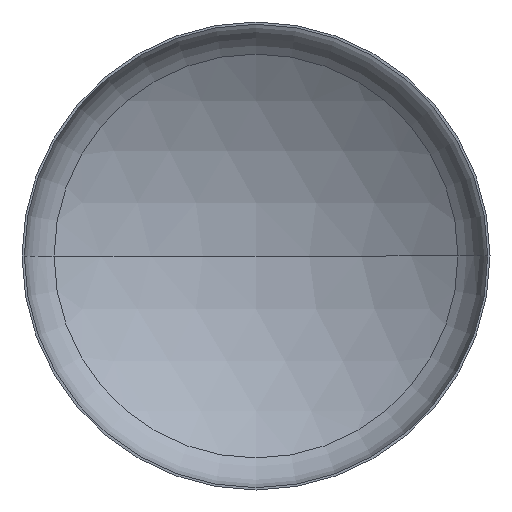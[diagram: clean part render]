
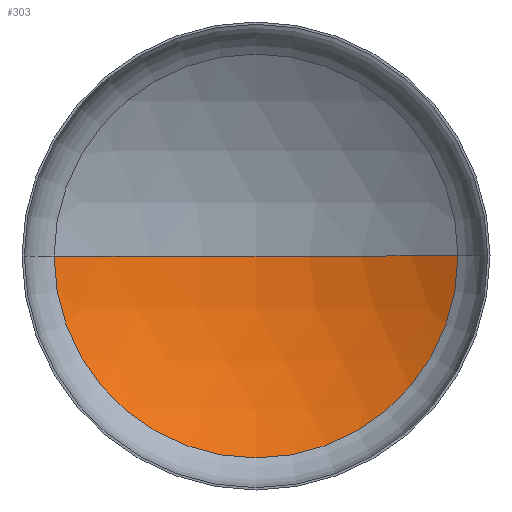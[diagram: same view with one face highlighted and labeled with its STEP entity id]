
A CAD part, front view. The second image highlights one B-rep face of the part: STEP entity #303.
In plain terms, the highlighted spherical face has radius 481.68 mm.
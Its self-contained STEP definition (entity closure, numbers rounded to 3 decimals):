
#24 = CARTESIAN_POINT ( 'NONE',  ( 0., 72.854, 0. ) ) ;
#26 = DIRECTION ( 'NONE',  ( 0., 0., 1. ) ) ;
#27 = CARTESIAN_POINT ( 'NONE',  ( 0., -330.68, 0. ) ) ;
#42 = CIRCLE ( 'NONE', #264, 481.68 ) ;
#54 = DIRECTION ( 'NONE',  ( -1., 0., 0. ) ) ;
#57 = ORIENTED_EDGE ( 'NONE', *, *, #276, .T. ) ;
#78 = CIRCLE ( 'NONE', #210, 263.013 ) ;
#79 = CARTESIAN_POINT ( 'NONE',  ( -263.013, 72.854, 0. ) ) ;
#80 = DIRECTION ( 'NONE',  ( -1., 0., 0. ) ) ;
#85 = SPHERICAL_SURFACE ( 'NONE', #222, 481.68 ) ;
#95 = ORIENTED_EDGE ( 'NONE', *, *, #157, .F. ) ;
#109 = DIRECTION ( 'NONE',  ( 0., 1., 0. ) ) ;
#134 = DIRECTION ( 'NONE',  ( -1., 0., 0. ) ) ;
#153 = ORIENTED_EDGE ( 'NONE', *, *, #381, .F. ) ;
#157 = EDGE_CURVE ( 'NONE', #257, #325, #42, .T. ) ;
#168 = AXIS2_PLACEMENT_3D ( 'NONE', #27, #265, #367 ) ;
#170 = DIRECTION ( 'NONE',  ( 0., 0., -1. ) ) ;
#179 = CARTESIAN_POINT ( 'NONE',  ( 0., -330.68, 0. ) ) ;
#203 = VERTEX_POINT ( 'NONE', #234 ) ;
#210 = AXIS2_PLACEMENT_3D ( 'NONE', #24, #109, #80 ) ;
#215 = FACE_OUTER_BOUND ( 'NONE', #406, .T. ) ;
#222 = AXIS2_PLACEMENT_3D ( 'NONE', #179, #26, #54 ) ;
#234 = CARTESIAN_POINT ( 'NONE',  ( 263.013, 72.854, 0. ) ) ;
#257 = VERTEX_POINT ( 'NONE', #79 ) ;
#264 = AXIS2_PLACEMENT_3D ( 'NONE', #396, #170, #134 ) ;
#265 = DIRECTION ( 'NONE',  ( 0., 0., 1. ) ) ;
#270 = CARTESIAN_POINT ( 'NONE',  ( 0., 151., 0. ) ) ;
#276 = EDGE_CURVE ( 'NONE', #203, #325, #304, .T. ) ;
#303 = ADVANCED_FACE ( 'NONE', ( #215 ), #85, .F. ) ;
#304 = CIRCLE ( 'NONE', #168, 481.68 ) ;
#325 = VERTEX_POINT ( 'NONE', #270 ) ;
#367 = DIRECTION ( 'NONE',  ( 1., 0., 0. ) ) ;
#381 = EDGE_CURVE ( 'NONE', #203, #257, #78, .T. ) ;
#396 = CARTESIAN_POINT ( 'NONE',  ( 0., -330.68, 0. ) ) ;
#406 = EDGE_LOOP ( 'NONE', ( #153, #57, #95 ) ) ;
